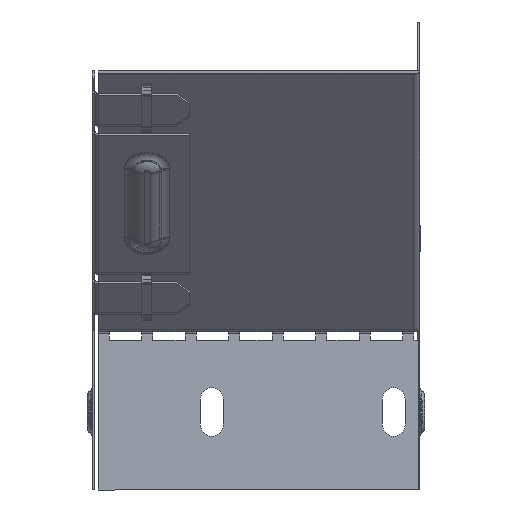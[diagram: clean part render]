
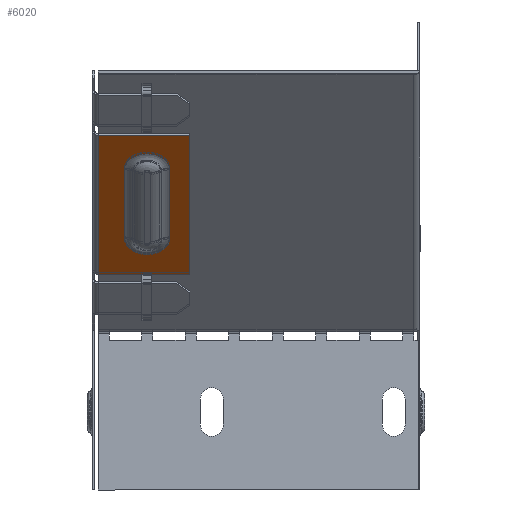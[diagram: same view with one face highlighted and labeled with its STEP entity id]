
A CAD part, left-side view. The second image highlights one B-rep face of the part: STEP entity #6020.
In plain terms, the highlighted planar face has unit normal (-0.707, 0, -0.707).
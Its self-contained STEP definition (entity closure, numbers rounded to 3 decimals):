
#360 = ORIENTED_EDGE ( 'NONE', *, *, #22155, .T. ) ;
#625 = CARTESIAN_POINT ( 'NONE',  ( -129.993, 83.1, -66.685 ) ) ;
#707 = DIRECTION ( 'NONE',  ( -0.707, 0., 0.707 ) ) ;
#747 = ORIENTED_EDGE ( 'NONE', *, *, #20997, .T. ) ;
#1120 = DIRECTION ( 'NONE',  ( 0.5, -0.707, -0.5 ) ) ;
#1252 = VERTEX_POINT ( 'NONE', #3581 ) ;
#1831 = CARTESIAN_POINT ( 'NONE',  ( -151.206, 90.017, -45.472 ) ) ;
#2070 = CARTESIAN_POINT ( 'NONE',  ( -178.087, 98.2, -18.591 ) ) ;
#2306 = VERTEX_POINT ( 'NONE', #12694 ) ;
#2531 = CARTESIAN_POINT ( 'NONE',  ( -129.993, 90.017, -66.685 ) ) ;
#2919 = CARTESIAN_POINT ( 'NONE',  ( -161.823, 70., -34.855 ) ) ;
#3131 = FACE_OUTER_BOUND ( 'NONE', #7818, .T. ) ;
#3427 = ORIENTED_EDGE ( 'NONE', *, *, #8741, .T. ) ;
#3581 = CARTESIAN_POINT ( 'NONE',  ( -151.206, 76.183, -45.472 ) ) ;
#3660 = LINE ( 'NONE', #20689, #8729 ) ;
#3721 = CIRCLE ( 'NONE', #19770, 6.917 ) ;
#3873 = AXIS2_PLACEMENT_3D ( 'NONE', #11198, #20477, #7785 ) ;
#3915 = LINE ( 'NONE', #2070, #22653 ) ;
#3953 = DIRECTION ( 'NONE',  ( -0.707, 0., 0.707 ) ) ;
#5528 = ORIENTED_EDGE ( 'NONE', *, *, #15212, .T. ) ;
#5646 = VERTEX_POINT ( 'NONE', #22210 ) ;
#5677 = PLANE ( 'NONE',  #3873 ) ;
#6020 = ADVANCED_FACE ( 'NONE', ( #10225, #3131 ), #5677, .F. ) ;
#6358 = VERTEX_POINT ( 'NONE', #20368 ) ;
#7785 = DIRECTION ( 'NONE',  ( 0.707, 0., -0.707 ) ) ;
#7818 = EDGE_LOOP ( 'NONE', ( #9005, #3427, #14904, #360 ) ) ;
#8093 = CARTESIAN_POINT ( 'NONE',  ( -119.022, 70., -77.656 ) ) ;
#8251 = DIRECTION ( 'NONE',  ( 0., -1., 0. ) ) ;
#8314 = CARTESIAN_POINT ( 'NONE',  ( -151.206, 83.1, -45.472 ) ) ;
#8729 = VECTOR ( 'NONE', #707, 1000. ) ;
#8741 = EDGE_CURVE ( 'NONE', #2306, #10511, #15373, .T. ) ;
#9005 = ORIENTED_EDGE ( 'NONE', *, *, #13103, .F. ) ;
#9346 = VERTEX_POINT ( 'NONE', #1831 ) ;
#9598 = VECTOR ( 'NONE', #10693, 1000. ) ;
#9644 = DIRECTION ( 'NONE',  ( 0.5, -0.707, -0.5 ) ) ;
#9842 = CARTESIAN_POINT ( 'NONE',  ( -119.022, 70., -77.656 ) ) ;
#10225 = FACE_BOUND ( 'NONE', #21184, .T. ) ;
#10511 = VERTEX_POINT ( 'NONE', #9842 ) ;
#10554 = VECTOR ( 'NONE', #8251, 1000. ) ;
#10693 = DIRECTION ( 'NONE',  ( 0., 1., 0. ) ) ;
#11198 = CARTESIAN_POINT ( 'NONE',  ( -90.837, 100., -105.841 ) ) ;
#11528 = CARTESIAN_POINT ( 'NONE',  ( -129.993, 76.183, -66.685 ) ) ;
#11988 = DIRECTION ( 'NONE',  ( 0.707, 0., 0.707 ) ) ;
#12694 = CARTESIAN_POINT ( 'NONE',  ( -119.022, 98.2, -77.656 ) ) ;
#12728 = EDGE_CURVE ( 'NONE', #9346, #1252, #3721, .T. ) ;
#13103 = EDGE_CURVE ( 'NONE', #2306, #13242, #3915, .T. ) ;
#13242 = VERTEX_POINT ( 'NONE', #22362 ) ;
#13381 = DIRECTION ( 'NONE',  ( 0.707, 0., 0.707 ) ) ;
#13533 = VECTOR ( 'NONE', #20786, 1000. ) ;
#14904 = ORIENTED_EDGE ( 'NONE', *, *, #23294, .T. ) ;
#15212 = EDGE_CURVE ( 'NONE', #5646, #6358, #18136, .T. ) ;
#15373 = LINE ( 'NONE', #8093, #10554 ) ;
#15393 = ORIENTED_EDGE ( 'NONE', *, *, #12728, .T. ) ;
#16233 = LINE ( 'NONE', #11528, #19603 ) ;
#16293 = CARTESIAN_POINT ( 'NONE',  ( -161.823, 70., -34.855 ) ) ;
#16993 = LINE ( 'NONE', #2919, #9598 ) ;
#17393 = AXIS2_PLACEMENT_3D ( 'NONE', #625, #13381, #9644 ) ;
#17716 = EDGE_CURVE ( 'NONE', #6358, #9346, #22626, .T. ) ;
#18136 = CIRCLE ( 'NONE', #17393, 6.917 ) ;
#18613 = DIRECTION ( 'NONE',  ( 0.707, 0., -0.707 ) ) ;
#19603 = VECTOR ( 'NONE', #18613, 1000. ) ;
#19770 = AXIS2_PLACEMENT_3D ( 'NONE', #8314, #11988, #1120 ) ;
#20317 = VERTEX_POINT ( 'NONE', #16293 ) ;
#20368 = CARTESIAN_POINT ( 'NONE',  ( -129.993, 90.017, -66.685 ) ) ;
#20477 = DIRECTION ( 'NONE',  ( 0.707, 0., 0.707 ) ) ;
#20689 = CARTESIAN_POINT ( 'NONE',  ( -90.837, 70., -105.841 ) ) ;
#20786 = DIRECTION ( 'NONE',  ( -0.707, 0., 0.707 ) ) ;
#20997 = EDGE_CURVE ( 'NONE', #1252, #5646, #16233, .T. ) ;
#21184 = EDGE_LOOP ( 'NONE', ( #747, #5528, #23048, #15393 ) ) ;
#22155 = EDGE_CURVE ( 'NONE', #20317, #13242, #16993, .T. ) ;
#22210 = CARTESIAN_POINT ( 'NONE',  ( -129.993, 76.183, -66.685 ) ) ;
#22362 = CARTESIAN_POINT ( 'NONE',  ( -161.823, 98.2, -34.855 ) ) ;
#22626 = LINE ( 'NONE', #2531, #13533 ) ;
#22653 = VECTOR ( 'NONE', #3953, 1000. ) ;
#23048 = ORIENTED_EDGE ( 'NONE', *, *, #17716, .T. ) ;
#23294 = EDGE_CURVE ( 'NONE', #10511, #20317, #3660, .T. ) ;
